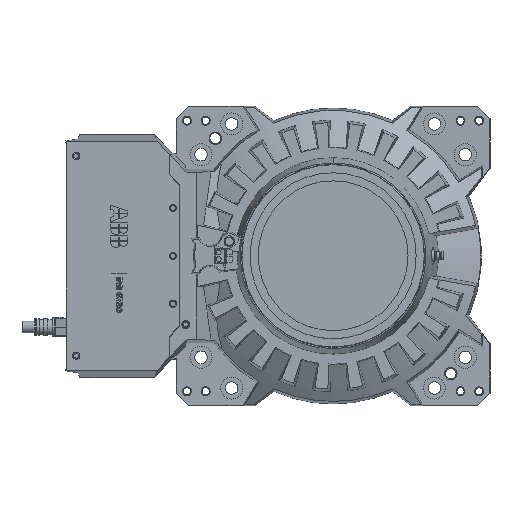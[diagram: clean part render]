
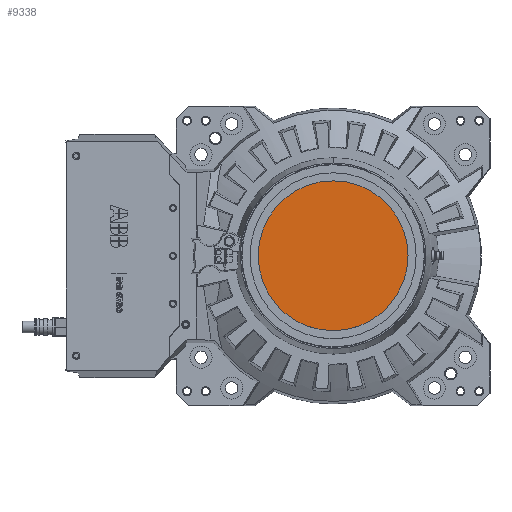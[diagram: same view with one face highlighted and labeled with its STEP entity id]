
A CAD part, top view. The second image highlights one B-rep face of the part: STEP entity #9338.
In plain terms, the highlighted planar face has unit normal (0, 0, 1).
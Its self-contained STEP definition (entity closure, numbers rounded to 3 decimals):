
#3773 = CIRCLE ( 'NONE', #50426, 180. ) ;
#4176 = DIRECTION ( 'NONE',  ( 1., 0., 0. ) ) ;
#5005 = PLANE ( 'NONE',  #48424 ) ;
#5967 = DIRECTION ( 'NONE',  ( 0., 0., -1. ) ) ;
#6398 = ORIENTED_EDGE ( 'NONE', *, *, #20137, .F. ) ;
#9338 = ADVANCED_FACE ( 'NONE', ( #30114 ), #5005, .T. ) ;
#11027 = CARTESIAN_POINT ( 'NONE',  ( 180., 0., 374. ) ) ;
#12683 = CARTESIAN_POINT ( 'NONE',  ( -180., 0., 374. ) ) ;
#20137 = EDGE_CURVE ( 'NONE', #24584, #38601, #3773, .T. ) ;
#20998 = EDGE_CURVE ( 'NONE', #38601, #24584, #32947, .T. ) ;
#21819 = DIRECTION ( 'NONE',  ( 0., 0., 1. ) ) ;
#24584 = VERTEX_POINT ( 'NONE', #11027 ) ;
#24771 = DIRECTION ( 'NONE',  ( -1., 0., 0. ) ) ;
#28611 = DIRECTION ( 'NONE',  ( 0., 0., -1. ) ) ;
#30114 = FACE_OUTER_BOUND ( 'NONE', #44867, .T. ) ;
#32947 = CIRCLE ( 'NONE', #48791, 180. ) ;
#37599 = CARTESIAN_POINT ( 'NONE',  ( -180., 0., 374. ) ) ;
#37896 = ORIENTED_EDGE ( 'NONE', *, *, #20998, .F. ) ;
#38601 = VERTEX_POINT ( 'NONE', #12683 ) ;
#39632 = DIRECTION ( 'NONE',  ( -1., 0., 0. ) ) ;
#43760 = CARTESIAN_POINT ( 'NONE',  ( 0., 0., 374. ) ) ;
#44867 = EDGE_LOOP ( 'NONE', ( #37896, #6398 ) ) ;
#48424 = AXIS2_PLACEMENT_3D ( 'NONE', #37599, #21819, #4176 ) ;
#48791 = AXIS2_PLACEMENT_3D ( 'NONE', #53952, #28611, #24771 ) ;
#50426 = AXIS2_PLACEMENT_3D ( 'NONE', #43760, #5967, #39632 ) ;
#53952 = CARTESIAN_POINT ( 'NONE',  ( 0., 0., 374. ) ) ;
